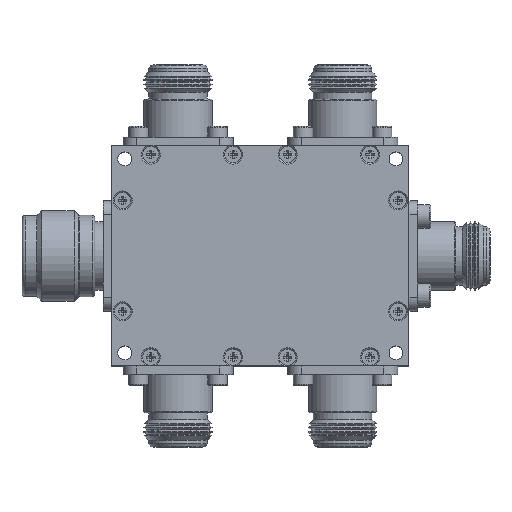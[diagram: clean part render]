
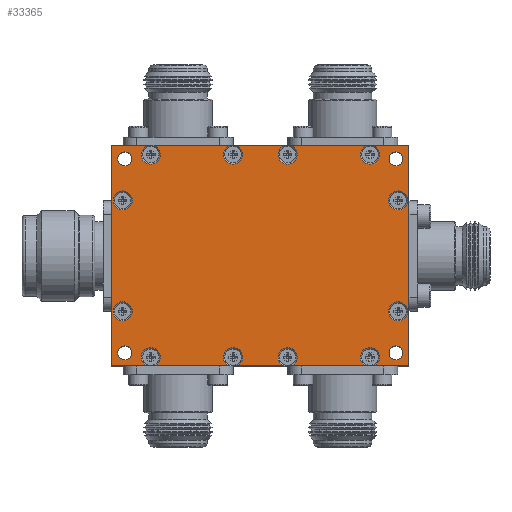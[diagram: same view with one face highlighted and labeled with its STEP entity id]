
A CAD part, top view. The second image highlights one B-rep face of the part: STEP entity #33365.
In plain terms, the highlighted planar face has unit normal (0, 0, 1).
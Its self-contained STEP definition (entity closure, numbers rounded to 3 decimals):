
#3184=LINE('',#57376,#6092);
#3185=LINE('',#57378,#6093);
#3186=LINE('',#57379,#6094);
#3187=LINE('',#57380,#6095);
#3188=LINE('',#57381,#6096);
#3189=LINE('',#57383,#6097);
#3190=LINE('',#57385,#6098);
#3191=LINE('',#57386,#6099);
#3192=LINE('',#57387,#6100);
#3193=LINE('',#57388,#6101);
#3194=LINE('',#57389,#6102);
#3195=LINE('',#57391,#6103);
#6092=VECTOR('',#46884,1000.);
#6093=VECTOR('',#46885,1000.);
#6094=VECTOR('',#46886,1000.);
#6095=VECTOR('',#46887,1000.);
#6096=VECTOR('',#46888,1000.);
#6097=VECTOR('',#46889,1000.);
#6098=VECTOR('',#46890,1000.);
#6099=VECTOR('',#46891,1000.);
#6100=VECTOR('',#46892,1000.);
#6101=VECTOR('',#46893,1000.);
#6102=VECTOR('',#46894,1000.);
#6103=VECTOR('',#46895,1000.);
#7789=PLANE('',#37763);
#16520=ORIENTED_EDGE('',*,*,#21078,.F.);
#16521=ORIENTED_EDGE('',*,*,#21020,.T.);
#16522=ORIENTED_EDGE('',*,*,#21079,.F.);
#16523=ORIENTED_EDGE('',*,*,#21024,.T.);
#16524=ORIENTED_EDGE('',*,*,#21080,.F.);
#16525=ORIENTED_EDGE('',*,*,#21028,.T.);
#16526=ORIENTED_EDGE('',*,*,#21081,.F.);
#16527=ORIENTED_EDGE('',*,*,#21032,.T.);
#16528=ORIENTED_EDGE('',*,*,#21082,.F.);
#16529=ORIENTED_EDGE('',*,*,#21083,.F.);
#16530=ORIENTED_EDGE('',*,*,#21084,.F.);
#16531=ORIENTED_EDGE('',*,*,#21036,.T.);
#16532=ORIENTED_EDGE('',*,*,#21085,.F.);
#16533=ORIENTED_EDGE('',*,*,#21040,.T.);
#16534=ORIENTED_EDGE('',*,*,#21086,.F.);
#16535=ORIENTED_EDGE('',*,*,#21044,.T.);
#16536=ORIENTED_EDGE('',*,*,#21087,.F.);
#16537=ORIENTED_EDGE('',*,*,#21048,.T.);
#16538=ORIENTED_EDGE('',*,*,#21088,.F.);
#16539=ORIENTED_EDGE('',*,*,#21089,.F.);
#16540=ORIENTED_EDGE('',*,*,#21057,.F.);
#16541=ORIENTED_EDGE('',*,*,#21055,.F.);
#16542=ORIENTED_EDGE('',*,*,#21053,.F.);
#16543=ORIENTED_EDGE('',*,*,#21051,.F.);
#16544=ORIENTED_EDGE('',*,*,#21016,.T.);
#16545=ORIENTED_EDGE('',*,*,#21013,.T.);
#16546=ORIENTED_EDGE('',*,*,#21010,.T.);
#16547=ORIENTED_EDGE('',*,*,#21007,.T.);
#21007=EDGE_CURVE('',#24107,#24107,#25249,.T.);
#21010=EDGE_CURVE('',#24110,#24110,#25252,.T.);
#21013=EDGE_CURVE('',#24113,#24113,#25255,.T.);
#21016=EDGE_CURVE('',#24116,#24116,#25258,.T.);
#21020=EDGE_CURVE('',#24119,#24120,#25261,.T.);
#21024=EDGE_CURVE('',#24123,#24124,#25264,.T.);
#21028=EDGE_CURVE('',#24127,#24128,#25267,.T.);
#21032=EDGE_CURVE('',#24131,#24132,#25270,.T.);
#21036=EDGE_CURVE('',#24136,#24135,#25273,.T.);
#21040=EDGE_CURVE('',#24140,#24139,#25276,.T.);
#21044=EDGE_CURVE('',#24144,#24143,#25279,.T.);
#21048=EDGE_CURVE('',#24148,#24147,#25282,.T.);
#21051=EDGE_CURVE('',#24151,#24151,#25285,.T.);
#21053=EDGE_CURVE('',#24153,#24153,#25287,.T.);
#21055=EDGE_CURVE('',#24155,#24155,#25289,.T.);
#21057=EDGE_CURVE('',#24157,#24157,#25291,.T.);
#21078=EDGE_CURVE('',#24119,#24178,#3184,.T.);
#21079=EDGE_CURVE('',#24123,#24120,#3185,.T.);
#21080=EDGE_CURVE('',#24127,#24124,#3186,.T.);
#21081=EDGE_CURVE('',#24131,#24128,#3187,.T.);
#21082=EDGE_CURVE('',#24179,#24132,#3188,.T.);
#21083=EDGE_CURVE('',#24180,#24179,#3189,.T.);
#21084=EDGE_CURVE('',#24136,#24180,#3190,.T.);
#21085=EDGE_CURVE('',#24140,#24135,#3191,.T.);
#21086=EDGE_CURVE('',#24144,#24139,#3192,.T.);
#21087=EDGE_CURVE('',#24148,#24143,#3193,.T.);
#21088=EDGE_CURVE('',#24181,#24147,#3194,.T.);
#21089=EDGE_CURVE('',#24178,#24181,#3195,.T.);
#24107=VERTEX_POINT('',#57166);
#24110=VERTEX_POINT('',#57174);
#24113=VERTEX_POINT('',#57182);
#24116=VERTEX_POINT('',#57190);
#24119=VERTEX_POINT('',#57202);
#24120=VERTEX_POINT('',#57203);
#24123=VERTEX_POINT('',#57216);
#24124=VERTEX_POINT('',#57217);
#24127=VERTEX_POINT('',#57230);
#24128=VERTEX_POINT('',#57231);
#24131=VERTEX_POINT('',#57244);
#24132=VERTEX_POINT('',#57245);
#24135=VERTEX_POINT('',#57258);
#24136=VERTEX_POINT('',#57259);
#24139=VERTEX_POINT('',#57272);
#24140=VERTEX_POINT('',#57273);
#24143=VERTEX_POINT('',#57286);
#24144=VERTEX_POINT('',#57287);
#24147=VERTEX_POINT('',#57300);
#24148=VERTEX_POINT('',#57301);
#24151=VERTEX_POINT('',#57310);
#24153=VERTEX_POINT('',#57315);
#24155=VERTEX_POINT('',#57320);
#24157=VERTEX_POINT('',#57325);
#24178=VERTEX_POINT('',#57377);
#24179=VERTEX_POINT('',#57382);
#24180=VERTEX_POINT('',#57384);
#24181=VERTEX_POINT('',#57390);
#25249=CIRCLE('',#37676,2.2);
#25252=CIRCLE('',#37681,2.2);
#25255=CIRCLE('',#37686,2.2);
#25258=CIRCLE('',#37691,2.2);
#25261=CIRCLE('',#37696,2.2);
#25264=CIRCLE('',#37701,2.2);
#25267=CIRCLE('',#37706,2.2);
#25270=CIRCLE('',#37711,2.2);
#25273=CIRCLE('',#37716,2.2);
#25276=CIRCLE('',#37721,2.2);
#25279=CIRCLE('',#37726,2.2);
#25282=CIRCLE('',#37731,2.2);
#25285=CIRCLE('',#37736,1.6);
#25287=CIRCLE('',#37739,1.6);
#25289=CIRCLE('',#37742,1.6);
#25291=CIRCLE('',#37745,1.6);
#27999=EDGE_LOOP('',(#16520,#16521,#16522,#16523,#16524,#16525,#16526,#16527,
#16528,#16529,#16530,#16531,#16532,#16533,#16534,#16535,#16536,#16537,#16538,
#16539));
#28000=EDGE_LOOP('',(#16540));
#28001=EDGE_LOOP('',(#16541));
#28002=EDGE_LOOP('',(#16542));
#28003=EDGE_LOOP('',(#16543));
#28004=EDGE_LOOP('',(#16544));
#28005=EDGE_LOOP('',(#16545));
#28006=EDGE_LOOP('',(#16546));
#28007=EDGE_LOOP('',(#16547));
#30839=FACE_BOUND('',#27999,.T.);
#30840=FACE_BOUND('',#28000,.T.);
#30841=FACE_BOUND('',#28001,.T.);
#30842=FACE_BOUND('',#28002,.T.);
#30843=FACE_BOUND('',#28003,.T.);
#30844=FACE_BOUND('',#28004,.T.);
#30845=FACE_BOUND('',#28005,.T.);
#30846=FACE_BOUND('',#28006,.T.);
#30847=FACE_BOUND('',#28007,.T.);
#33365=ADVANCED_FACE('',(#30839,#30840,#30841,#30842,#30843,#30844,#30845,
#30846,#30847),#7789,.F.);
#37676=AXIS2_PLACEMENT_3D('',#57165,#46696,#46697);
#37681=AXIS2_PLACEMENT_3D('',#57173,#46706,#46707);
#37686=AXIS2_PLACEMENT_3D('',#57181,#46716,#46717);
#37691=AXIS2_PLACEMENT_3D('',#57189,#46726,#46727);
#37696=AXIS2_PLACEMENT_3D('',#57204,#46736,#46737);
#37701=AXIS2_PLACEMENT_3D('',#57218,#46746,#46747);
#37706=AXIS2_PLACEMENT_3D('',#57232,#46756,#46757);
#37711=AXIS2_PLACEMENT_3D('',#57246,#46766,#46767);
#37716=AXIS2_PLACEMENT_3D('',#57260,#46776,#46777);
#37721=AXIS2_PLACEMENT_3D('',#57274,#46786,#46787);
#37726=AXIS2_PLACEMENT_3D('',#57288,#46796,#46797);
#37731=AXIS2_PLACEMENT_3D('',#57302,#46806,#46807);
#37736=AXIS2_PLACEMENT_3D('',#57309,#46816,#46817);
#37739=AXIS2_PLACEMENT_3D('',#57314,#46822,#46823);
#37742=AXIS2_PLACEMENT_3D('',#57319,#46828,#46829);
#37745=AXIS2_PLACEMENT_3D('',#57324,#46834,#46835);
#37763=AXIS2_PLACEMENT_3D('',#57375,#46882,#46883);
#46696=DIRECTION('',(0.,0.,-1.));
#46697=DIRECTION('',(0.,1.,0.));
#46706=DIRECTION('',(0.,0.,-1.));
#46707=DIRECTION('',(0.,1.,0.));
#46716=DIRECTION('',(0.,0.,-1.));
#46717=DIRECTION('',(0.,1.,0.));
#46726=DIRECTION('',(0.,0.,-1.));
#46727=DIRECTION('',(0.,1.,0.));
#46736=DIRECTION('',(0.,0.,-1.));
#46737=DIRECTION('',(0.,1.,0.));
#46746=DIRECTION('',(0.,0.,-1.));
#46747=DIRECTION('',(0.,1.,0.));
#46756=DIRECTION('',(0.,0.,-1.));
#46757=DIRECTION('',(0.,1.,0.));
#46766=DIRECTION('',(0.,0.,-1.));
#46767=DIRECTION('',(0.,1.,0.));
#46776=DIRECTION('',(0.,0.,-1.));
#46777=DIRECTION('',(0.,1.,0.));
#46786=DIRECTION('',(0.,0.,-1.));
#46787=DIRECTION('',(0.,1.,0.));
#46796=DIRECTION('',(0.,0.,-1.));
#46797=DIRECTION('',(0.,1.,0.));
#46806=DIRECTION('',(0.,0.,-1.));
#46807=DIRECTION('',(0.,1.,0.));
#46816=DIRECTION('',(0.,0.,1.));
#46817=DIRECTION('',(1.,0.,0.));
#46822=DIRECTION('',(0.,0.,1.));
#46823=DIRECTION('',(1.,0.,0.));
#46828=DIRECTION('',(0.,0.,1.));
#46829=DIRECTION('',(1.,0.,0.));
#46834=DIRECTION('',(0.,0.,1.));
#46835=DIRECTION('',(1.,0.,0.));
#46882=DIRECTION('',(0.,0.,-1.));
#46883=DIRECTION('',(-1.,0.,0.));
#46884=DIRECTION('',(-1.,0.,0.));
#46885=DIRECTION('',(-1.,0.,0.));
#46886=DIRECTION('',(-1.,0.,0.));
#46887=DIRECTION('',(-1.,0.,0.));
#46888=DIRECTION('',(-1.,0.,0.));
#46889=DIRECTION('',(0.,-1.,0.));
#46890=DIRECTION('',(1.,0.,0.));
#46891=DIRECTION('',(1.,0.,0.));
#46892=DIRECTION('',(1.,0.,0.));
#46893=DIRECTION('',(1.,0.,0.));
#46894=DIRECTION('',(1.,0.,0.));
#46895=DIRECTION('',(0.,1.,0.));
#57165=CARTESIAN_POINT('',(31.8,-12.8,6.7));
#57166=CARTESIAN_POINT('',(31.8,-10.6,6.7));
#57173=CARTESIAN_POINT('',(31.8,12.8,6.7));
#57174=CARTESIAN_POINT('',(31.8,15.,6.7));
#57181=CARTESIAN_POINT('',(-31.8,12.8,6.7));
#57182=CARTESIAN_POINT('',(-31.8,15.,6.7));
#57189=CARTESIAN_POINT('',(-31.8,-12.8,6.7));
#57190=CARTESIAN_POINT('',(-31.8,-10.6,6.7));
#57202=CARTESIAN_POINT('',(-26.217,-25.4,6.7));
#57203=CARTESIAN_POINT('',(-24.383,-25.4,6.7));
#57204=CARTESIAN_POINT('',(-25.3,-23.4,6.7));
#57216=CARTESIAN_POINT('',(-7.217,-25.4,6.7));
#57217=CARTESIAN_POINT('',(-5.383,-25.4,6.7));
#57218=CARTESIAN_POINT('',(-6.3,-23.4,6.7));
#57230=CARTESIAN_POINT('',(5.383,-25.4,6.7));
#57231=CARTESIAN_POINT('',(7.217,-25.4,6.7));
#57232=CARTESIAN_POINT('',(6.3,-23.4,6.7));
#57244=CARTESIAN_POINT('',(24.383,-25.4,6.7));
#57245=CARTESIAN_POINT('',(26.217,-25.4,6.7));
#57246=CARTESIAN_POINT('',(25.3,-23.4,6.7));
#57258=CARTESIAN_POINT('',(24.383,25.4,6.7));
#57259=CARTESIAN_POINT('',(26.217,25.4,6.7));
#57260=CARTESIAN_POINT('',(25.3,23.4,6.7));
#57272=CARTESIAN_POINT('',(5.383,25.4,6.7));
#57273=CARTESIAN_POINT('',(7.217,25.4,6.7));
#57274=CARTESIAN_POINT('',(6.3,23.4,6.7));
#57286=CARTESIAN_POINT('',(-7.217,25.4,6.7));
#57287=CARTESIAN_POINT('',(-5.383,25.4,6.7));
#57288=CARTESIAN_POINT('',(-6.3,23.4,6.7));
#57300=CARTESIAN_POINT('',(-26.217,25.4,6.7));
#57301=CARTESIAN_POINT('',(-24.383,25.4,6.7));
#57302=CARTESIAN_POINT('',(-25.3,23.4,6.7));
#57309=CARTESIAN_POINT('',(-31.3,-22.4,6.7));
#57310=CARTESIAN_POINT('',(-29.7,-22.4,6.7));
#57314=CARTESIAN_POINT('',(31.3,-22.4,6.7));
#57315=CARTESIAN_POINT('',(32.9,-22.4,6.7));
#57319=CARTESIAN_POINT('',(31.3,22.4,6.7));
#57320=CARTESIAN_POINT('',(32.9,22.4,6.7));
#57324=CARTESIAN_POINT('',(-31.3,22.4,6.7));
#57325=CARTESIAN_POINT('',(-29.7,22.4,6.7));
#57375=CARTESIAN_POINT('',(0.,0.,6.7));
#57376=CARTESIAN_POINT('',(34.3,-25.4,6.7));
#57377=CARTESIAN_POINT('',(-34.3,-25.4,6.7));
#57378=CARTESIAN_POINT('',(34.3,-25.4,6.7));
#57379=CARTESIAN_POINT('',(34.3,-25.4,6.7));
#57380=CARTESIAN_POINT('',(34.3,-25.4,6.7));
#57381=CARTESIAN_POINT('',(34.3,-25.4,6.7));
#57382=CARTESIAN_POINT('',(34.3,-25.4,6.7));
#57383=CARTESIAN_POINT('',(34.3,25.4,6.7));
#57384=CARTESIAN_POINT('',(34.3,25.4,6.7));
#57385=CARTESIAN_POINT('',(-34.3,25.4,6.7));
#57386=CARTESIAN_POINT('',(-34.3,25.4,6.7));
#57387=CARTESIAN_POINT('',(-34.3,25.4,6.7));
#57388=CARTESIAN_POINT('',(-34.3,25.4,6.7));
#57389=CARTESIAN_POINT('',(-34.3,25.4,6.7));
#57390=CARTESIAN_POINT('',(-34.3,25.4,6.7));
#57391=CARTESIAN_POINT('',(-34.3,-25.4,6.7));
